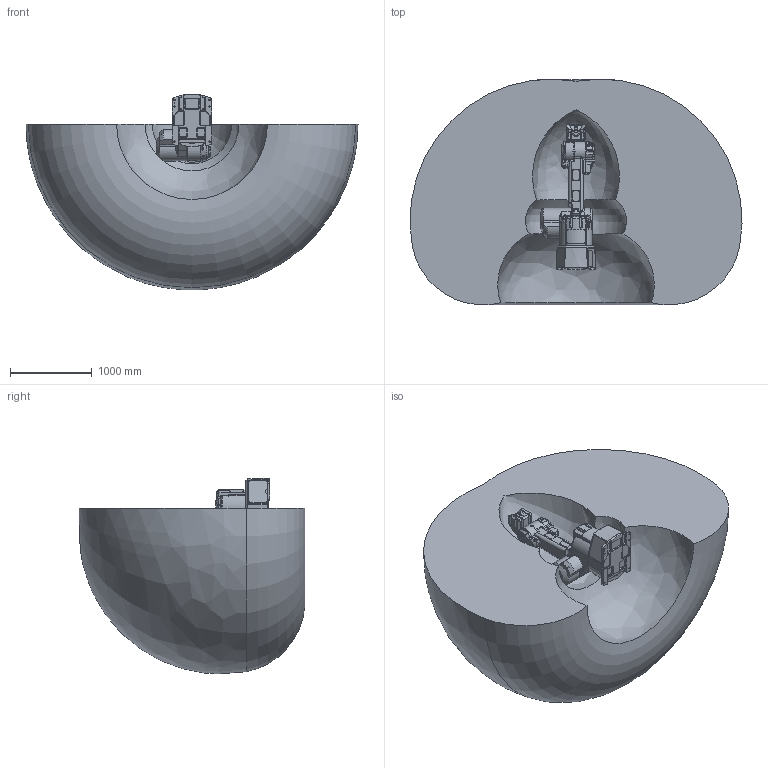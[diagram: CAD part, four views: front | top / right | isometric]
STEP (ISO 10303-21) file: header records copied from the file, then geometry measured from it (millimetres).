
FILE_DESCRIPTION((''),'2;1');
FILE_NAME('RP10-1_ASM','2022-12-09T09:30:12',('Administrator'),(''),'CREO PARAMETRIC BY PTC INC, 2018260','CREO PARAMETRIC BY PTC INC, 2018260','');
FILE_SCHEMA(('CONFIG_CONTROL_DESIGN','SHAPE_APPEARANCE_LAYERS_GROUPS'));
Products named in the file (9): RP10-1_BASE; RP10-1_JOINT1; RP10-1_JOINT2; RP10-1_JOINT3; RP10-1_JOINT4; RP10-1_JOINT5; RP10-1_JOINT6; RP10-1_RANGE; RP10-1_ASM
Assembly tree (8 placements, depth 2):
  RP10-1_ASM
    RP10-1_BASE
    RP10-1_JOINT1
    RP10-1_JOINT2
    RP10-1_JOINT3
    RP10-1_JOINT4
    RP10-1_JOINT5
    RP10-1_JOINT6
    RP10-1_RANGE
Bounding box: 4068.25 x 2763.88 x 2396.17 mm (x, y, z)
Volume: 12218000251 mm3; surface area: 38183984.5 mm2
Topology: 8 solids, 33 shells, 4489 faces, 10698 edges, 6404 vertices
Faces by surface type: cylinder 1490, bspline 1315, plane 901, torus 466, cone 268, sphere 27, extrusion 22
Entity records: 189782 total; most frequent: CARTESIAN_POINT 95810, ORIENTED_EDGE 21214, DIRECTION 17219, EDGE_CURVE 10607, AXIS2_PLACEMENT_3D 6979, VERTEX_POINT 6404, EDGE_LOOP 4779, FACE_OUTER_BOUND 4489
